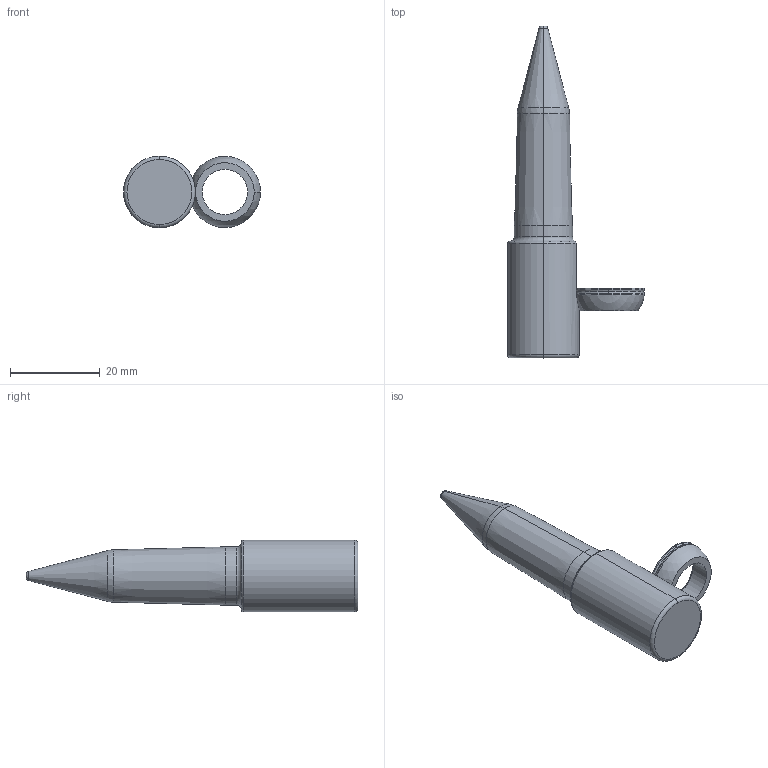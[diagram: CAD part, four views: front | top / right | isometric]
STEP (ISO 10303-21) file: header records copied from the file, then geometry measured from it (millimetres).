
FILE_DESCRIPTION (( 'STEP AP214' ), '1' );
FILE_NAME ('PA-T-13mm-2.5mm-25mm-3-A-F1.STEP', '2019-05-08T18:03:11', ( '' ), ( '' ), 'SwSTEP 2.0', 'SolidWorks 2017', '' );
FILE_SCHEMA (( 'AUTOMOTIVE_DESIGN' ));
Length unit declared in the file: inch
Products named in the file (3): SLPilot-PA-T-M_PA-T-13-2.5-25-3-A-F1; SLRadiusWasher_RadiusWasher-M; PA-T-13mm-2.5mm-25mm-3-A-F1
Assembly tree (2 placements, depth 2):
  PA-T-13mm-2.5mm-25mm-3-A-F1
    SLRadiusWasher_RadiusWasher-M
    SLPilot-PA-T-M_PA-T-13-2.5-25-3-A-F1
Bounding box: 30.55 x 74.04 x 16 mm (x, y, z)
Volume: 9947.1 mm3; surface area: 3651 mm2
Topology: 2 solids, 2 shells, 41 faces, 89 edges, 52 vertices
Faces by surface type: torus 15, cylinder 11, cone 6, plane 5, sphere 4
Entity records: 1320 total; most frequent: CARTESIAN_POINT 256, DIRECTION 242, ORIENTED_EDGE 178, AXIS2_PLACEMENT_3D 112, EDGE_CURVE 89, CIRCLE 66, VERTEX_POINT 52, EDGE_LOOP 43
